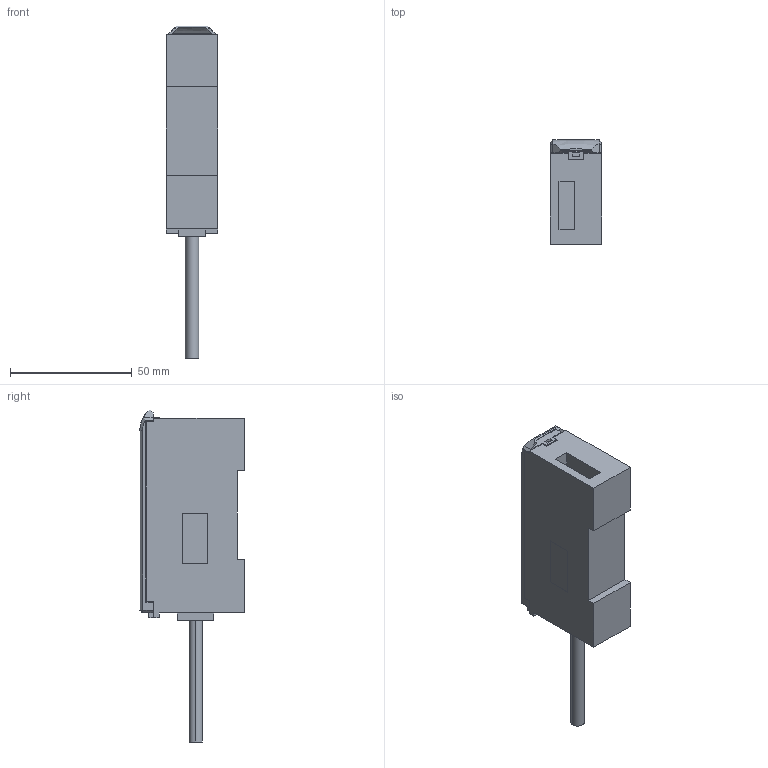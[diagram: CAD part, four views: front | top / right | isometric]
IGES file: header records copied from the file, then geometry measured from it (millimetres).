
Start section: SolidWorks IGES file using analytic representation for surfaces
Global section: file name: C:\catalog\hg-sc101.IGS; native system: SolidWorks 2010; preprocessor: SolidWorks 2010; author: 90C1105; date: 151002.203935; units: millimetre
Bounding box: 21.1 x 43.07 x 136.4 mm (x, y, z)
Surface area: 18588.9 mm2 (no closed solid volume)
Topology: 0 solids, 0 shells, 192 faces, 1071 edges, 1071 vertices
Faces by surface type: bspline 187, revolution 5
